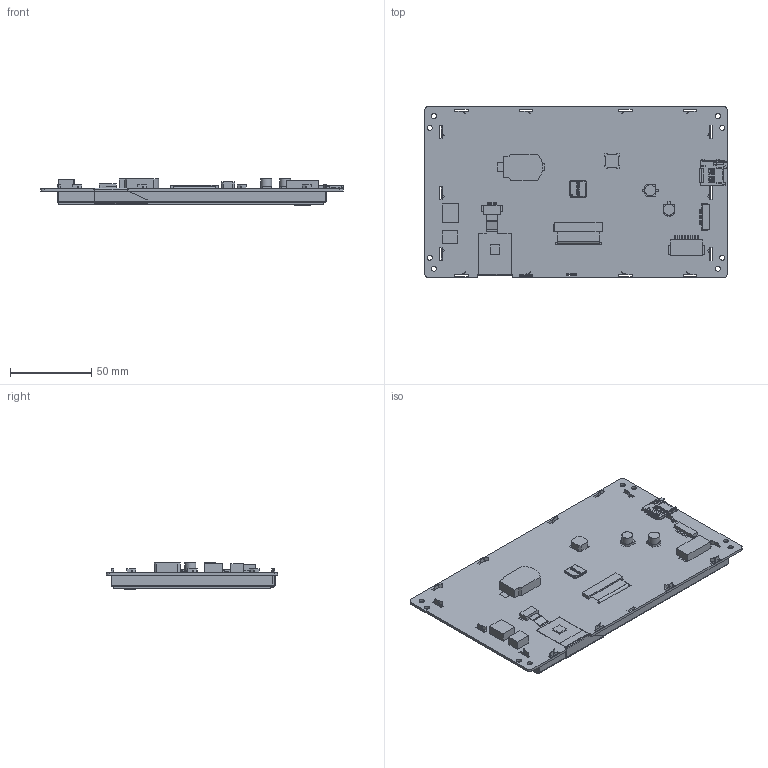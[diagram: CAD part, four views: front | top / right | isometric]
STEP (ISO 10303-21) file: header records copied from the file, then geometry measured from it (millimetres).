
FILE_DESCRIPTION(/* description */ (''),/* implementation_level */ '2;1');
FILE_NAME(/* name */ '',/* time_stamp */ '2021-07-22T10:27:04+08:00',/* author */ (''),/* organization */ (''),/* preprocessor_version */ 'ST-DEVELOPER v11',/* originating_system */ 'SIEMENS PLM Software NX 7.5',/* authorisation */ '');
FILE_SCHEMA (('AP203_CONFIGURATION_CONTROLLED_3D_DESIGN_OF_MECHANICAL_PARTS_AND_ASSEMBLIES_MIM_LF'));
Products named in the file (1): b070T84V01C
Bounding box: 186.3 x 105.4 x 16.11 mm (x, y, z)
Volume: 165054.5 mm3; surface area: 127635.8 mm2
Topology: 22 solids, 22 shells, 2567 faces, 7390 edges, 4883 vertices
Faces by surface type: plane 2114, cylinder 445, bspline 7, cone 1
Full cylindrical faces by diameter (mm): 3.2 x8, 6.776 x2
Entity records: 86065 total; most frequent: CARTESIAN_POINT 15443, ORIENTED_EDGE 14654, DIRECTION 13299, EDGE_CURVE 7327, LINE 6417, VECTOR 6417, VERTEX_POINT 4806, AXIS2_PLACEMENT_3D 3441
